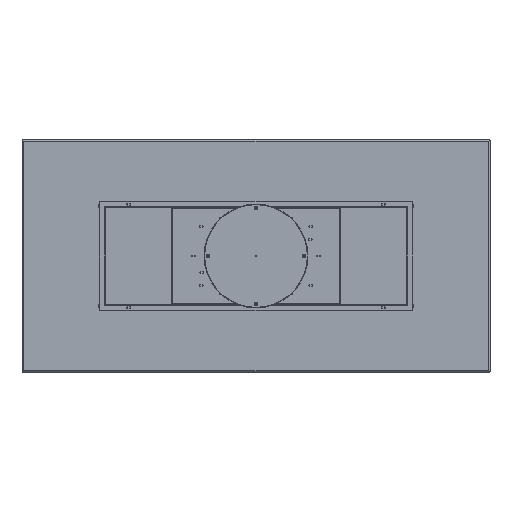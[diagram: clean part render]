
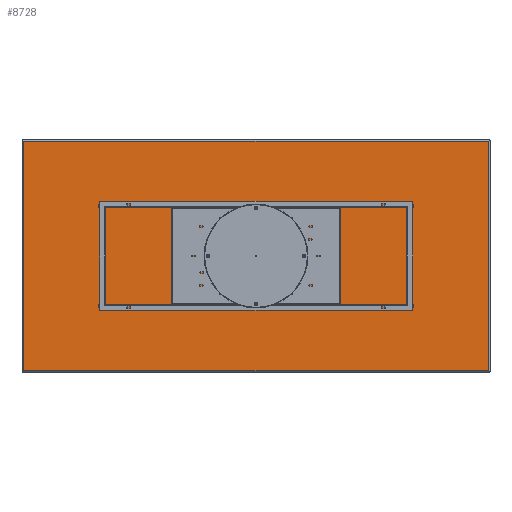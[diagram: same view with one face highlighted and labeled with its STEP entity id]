
A CAD part, front view. The second image highlights one B-rep face of the part: STEP entity #8728.
In plain terms, the highlighted planar face has unit normal (0, -1, 0).
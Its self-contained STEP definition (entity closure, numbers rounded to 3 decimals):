
#119 = VERTEX_POINT ( 'NONE', #4259 ) ;
#1404 = LINE ( 'NONE', #7190, #13468 ) ;
#1642 = EDGE_CURVE ( 'NONE', #6335, #8655, #9228, .T. ) ;
#1645 = CARTESIAN_POINT ( 'NONE',  ( 0., 0., 587. ) ) ;
#1730 = DIRECTION ( 'NONE',  ( 0., 0., -1. ) ) ;
#1785 = FACE_OUTER_BOUND ( 'NONE', #4037, .T. ) ;
#2949 = CARTESIAN_POINT ( 'NONE',  ( -1187., 0., 0. ) ) ;
#3778 = DIRECTION ( 'NONE',  ( 0., 0., 1. ) ) ;
#4037 = EDGE_LOOP ( 'NONE', ( #6974, #12738, #11012, #12806 ) ) ;
#4259 = CARTESIAN_POINT ( 'NONE',  ( 1187., 0., -587. ) ) ;
#4429 = EDGE_CURVE ( 'NONE', #10946, #6335, #13410, .T. ) ;
#4507 = DIRECTION ( 'NONE',  ( 1., 0., 0. ) ) ;
#4788 = CARTESIAN_POINT ( 'NONE',  ( -1187., 0., -587. ) ) ;
#4929 = DIRECTION ( 'NONE',  ( 0., 0., 1. ) ) ;
#5916 = DIRECTION ( 'NONE',  ( 0., 1., 0. ) ) ;
#6065 = CARTESIAN_POINT ( 'NONE',  ( 0., 0., 0. ) ) ;
#6335 = VERTEX_POINT ( 'NONE', #12614 ) ;
#6837 = LINE ( 'NONE', #8848, #9643 ) ;
#6974 = ORIENTED_EDGE ( 'NONE', *, *, #9135, .T. ) ;
#7190 = CARTESIAN_POINT ( 'NONE',  ( 1187., 0., 0. ) ) ;
#8655 = VERTEX_POINT ( 'NONE', #4788 ) ;
#8689 = AXIS2_PLACEMENT_3D ( 'NONE', #6065, #5916, #4929 ) ;
#8728 = ADVANCED_FACE ( 'NONE', ( #1785 ), #12406, .F. ) ;
#8848 = CARTESIAN_POINT ( 'NONE',  ( 0., 0., -587. ) ) ;
#9135 = EDGE_CURVE ( 'NONE', #119, #10946, #1404, .T. ) ;
#9228 = LINE ( 'NONE', #2949, #11237 ) ;
#9643 = VECTOR ( 'NONE', #4507, 1000. ) ;
#10387 = EDGE_CURVE ( 'NONE', #8655, #119, #6837, .T. ) ;
#10946 = VERTEX_POINT ( 'NONE', #13652 ) ;
#11012 = ORIENTED_EDGE ( 'NONE', *, *, #1642, .T. ) ;
#11237 = VECTOR ( 'NONE', #1730, 1000. ) ;
#11278 = DIRECTION ( 'NONE',  ( -1., 0., 0. ) ) ;
#12359 = VECTOR ( 'NONE', #11278, 1000. ) ;
#12406 = PLANE ( 'NONE',  #8689 ) ;
#12614 = CARTESIAN_POINT ( 'NONE',  ( -1187., 0., 587. ) ) ;
#12738 = ORIENTED_EDGE ( 'NONE', *, *, #4429, .T. ) ;
#12806 = ORIENTED_EDGE ( 'NONE', *, *, #10387, .T. ) ;
#13410 = LINE ( 'NONE', #1645, #12359 ) ;
#13468 = VECTOR ( 'NONE', #3778, 1000. ) ;
#13652 = CARTESIAN_POINT ( 'NONE',  ( 1187., 0., 587. ) ) ;
